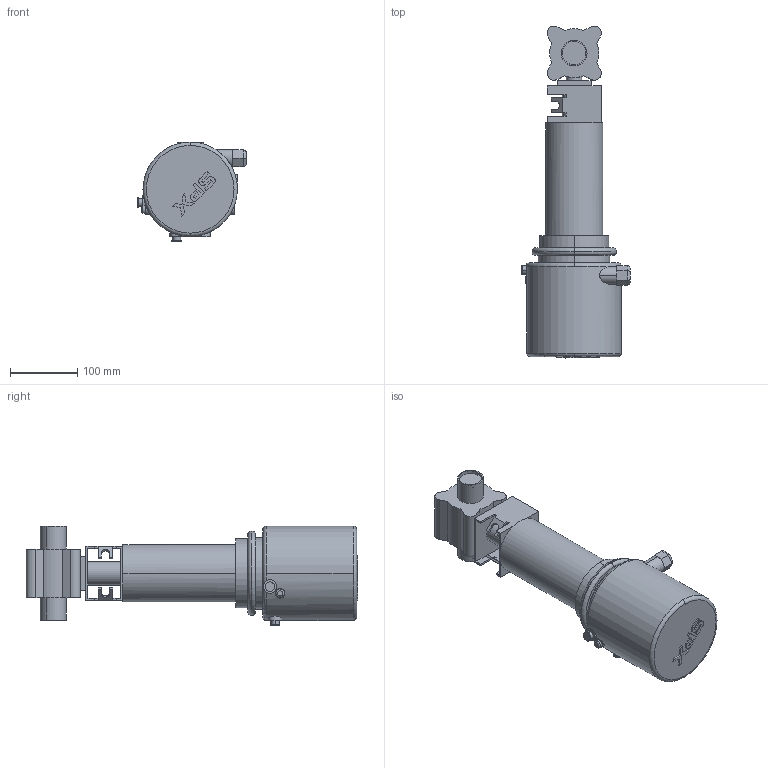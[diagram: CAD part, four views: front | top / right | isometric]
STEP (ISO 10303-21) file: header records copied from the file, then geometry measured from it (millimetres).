
FILE_DESCRIPTION(('Creo Elements/Direct Modeling STEP Export'),'2;1');
FILE_NAME('BLV1-1.5T-NC-12S-CU4.stp','2019-05-10T 8:05:48',(''),(''),'Creo Elements/Direct Modeling STEP processor for AP214 (Solid Model)','Creo Elements/Direct Modeling 19.0F 14-Feb-2017 (C) Parametric Technology GmbH','');
FILE_SCHEMA(('AUTOMOTIVE_DESIGN { 1 0 10303 214 1 1 1 1 }'));
Length unit declared in the file: millimetre
Products named in the file (2): BLV1-1.5T-NC-12S-CU4
Assembly tree (1 placements, depth 2):
  BLV1-1.5T-NC-12S-CU4
    BLV1-1.5T-NC-12S-CU4
Bounding box: 161.4 x 492.24 x 148 mm (x, y, z)
Volume: 4042908 mm3; surface area: 249642.7 mm2
Topology: 1 solids, 1 shells, 227 faces, 576 edges, 375 vertices
Faces by surface type: cylinder 113, plane 104, torus 10
Entity records: 9842 total; most frequent: CARTESIAN_POINT 4390, ORIENTED_EDGE 1154, DIRECTION 1078, EDGE_CURVE 577, AXIS2_PLACEMENT_3D 400, VERTEX_POINT 375, VECTOR 278, LINE 278
